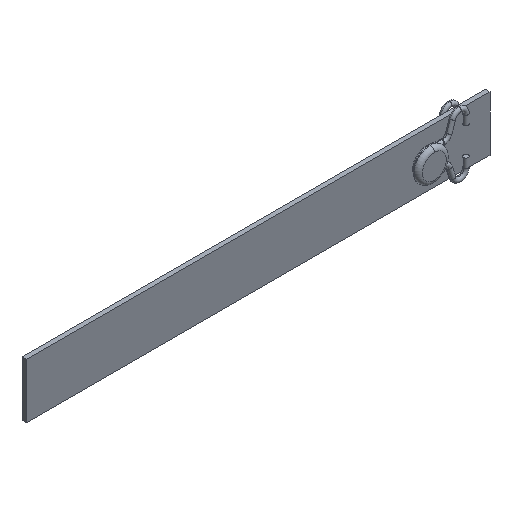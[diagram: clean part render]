
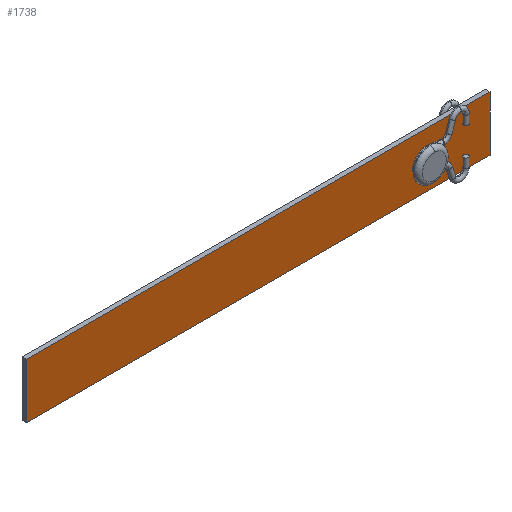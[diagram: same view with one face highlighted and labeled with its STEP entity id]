
A CAD part, isometric view. The second image highlights one B-rep face of the part: STEP entity #1738.
In plain terms, the highlighted planar face has unit normal (0, -1, 0).
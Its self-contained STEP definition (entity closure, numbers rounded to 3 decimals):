
#44 = AXIS2_PLACEMENT_3D ( 'NONE', #1838, #1858, #1841 ) ;
#69 = CARTESIAN_POINT ( 'NONE',  ( 0., -0.5, -5.925 ) ) ;
#133 = VERTEX_POINT ( 'NONE', #69 ) ;
#158 = PLANE ( 'NONE',  #1651 ) ;
#173 = VECTOR ( 'NONE', #2008, 1000. ) ;
#195 = ORIENTED_EDGE ( 'NONE', *, *, #2105, .F. ) ;
#238 = CARTESIAN_POINT ( 'NONE',  ( -100., -0.5, 5.925 ) ) ;
#282 = LINE ( 'NONE', #1516, #737 ) ;
#349 = VERTEX_POINT ( 'NONE', #1269 ) ;
#354 = CARTESIAN_POINT ( 'NONE',  ( 0., -0.5, -5.925 ) ) ;
#379 = EDGE_CURVE ( 'NONE', #1239, #1134, #656, .T. ) ;
#426 = FACE_OUTER_BOUND ( 'NONE', #1004, .T. ) ;
#489 = CARTESIAN_POINT ( 'NONE',  ( 0., -0.5, 5.925 ) ) ;
#500 = VERTEX_POINT ( 'NONE', #238 ) ;
#625 = DIRECTION ( 'NONE',  ( 0., 1., 0. ) ) ;
#654 = EDGE_LOOP ( 'NONE', ( #666, #1466 ) ) ;
#655 = DIRECTION ( 'NONE',  ( 0., 0., 1. ) ) ;
#656 = CIRCLE ( 'NONE', #1848, 1.95 ) ;
#666 = ORIENTED_EDGE ( 'NONE', *, *, #379, .T. ) ;
#678 = LINE ( 'NONE', #489, #173 ) ;
#703 = LINE ( 'NONE', #1901, #1567 ) ;
#737 = VECTOR ( 'NONE', #1524, 1000. ) ;
#1004 = EDGE_LOOP ( 'NONE', ( #1061, #195, #2159, #2113 ) ) ;
#1014 = VERTEX_POINT ( 'NONE', #1970 ) ;
#1038 = CIRCLE ( 'NONE', #44, 1.95 ) ;
#1061 = ORIENTED_EDGE ( 'NONE', *, *, #2039, .F. ) ;
#1134 = VERTEX_POINT ( 'NONE', #1409 ) ;
#1215 = CARTESIAN_POINT ( 'NONE',  ( -14., -0.5, 1.95 ) ) ;
#1216 = DIRECTION ( 'NONE',  ( -1., 0., 0. ) ) ;
#1239 = VERTEX_POINT ( 'NONE', #1215 ) ;
#1269 = CARTESIAN_POINT ( 'NONE',  ( -100., -0.5, -5.925 ) ) ;
#1285 = VECTOR ( 'NONE', #1216, 1000. ) ;
#1409 = CARTESIAN_POINT ( 'NONE',  ( -14., -0.5, -1.95 ) ) ;
#1466 = ORIENTED_EDGE ( 'NONE', *, *, #1617, .T. ) ;
#1516 = CARTESIAN_POINT ( 'NONE',  ( -100., -0.5, -5.925 ) ) ;
#1524 = DIRECTION ( 'NONE',  ( 0., 0., 1. ) ) ;
#1562 = EDGE_CURVE ( 'NONE', #349, #500, #282, .T. ) ;
#1567 = VECTOR ( 'NONE', #1578, 1000. ) ;
#1578 = DIRECTION ( 'NONE',  ( 0., 0., -1. ) ) ;
#1612 = EDGE_CURVE ( 'NONE', #500, #1014, #678, .T. ) ;
#1617 = EDGE_CURVE ( 'NONE', #1134, #1239, #1038, .T. ) ;
#1651 = AXIS2_PLACEMENT_3D ( 'NONE', #1852, #2202, #655 ) ;
#1727 = FACE_BOUND ( 'NONE', #654, .T. ) ;
#1738 = ADVANCED_FACE ( 'NONE', ( #1727, #426 ), #158, .F. ) ;
#1818 = CARTESIAN_POINT ( 'NONE',  ( -14., -0.5, 0. ) ) ;
#1838 = CARTESIAN_POINT ( 'NONE',  ( -14., -0.5, 0. ) ) ;
#1841 = DIRECTION ( 'NONE',  ( 0., 0., 1. ) ) ;
#1848 = AXIS2_PLACEMENT_3D ( 'NONE', #1818, #625, #2068 ) ;
#1852 = CARTESIAN_POINT ( 'NONE',  ( 0., -0.5, 0. ) ) ;
#1858 = DIRECTION ( 'NONE',  ( 0., 1., 0. ) ) ;
#1901 = CARTESIAN_POINT ( 'NONE',  ( 0., -0.5, 5.925 ) ) ;
#1970 = CARTESIAN_POINT ( 'NONE',  ( 0., -0.5, 5.925 ) ) ;
#2008 = DIRECTION ( 'NONE',  ( 1., 0., 0. ) ) ;
#2039 = EDGE_CURVE ( 'NONE', #133, #349, #2161, .T. ) ;
#2068 = DIRECTION ( 'NONE',  ( 0., 0., 1. ) ) ;
#2105 = EDGE_CURVE ( 'NONE', #1014, #133, #703, .T. ) ;
#2113 = ORIENTED_EDGE ( 'NONE', *, *, #1562, .F. ) ;
#2159 = ORIENTED_EDGE ( 'NONE', *, *, #1612, .F. ) ;
#2161 = LINE ( 'NONE', #354, #1285 ) ;
#2202 = DIRECTION ( 'NONE',  ( 0., 1., 0. ) ) ;
